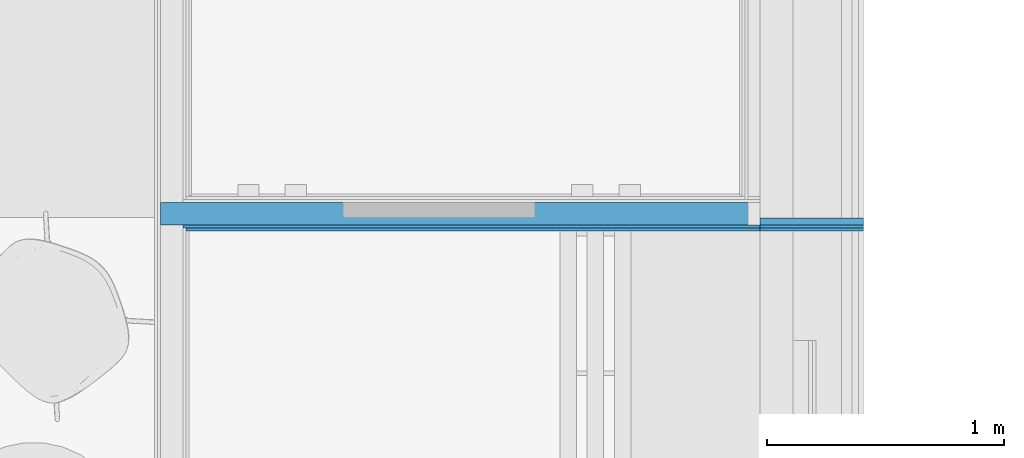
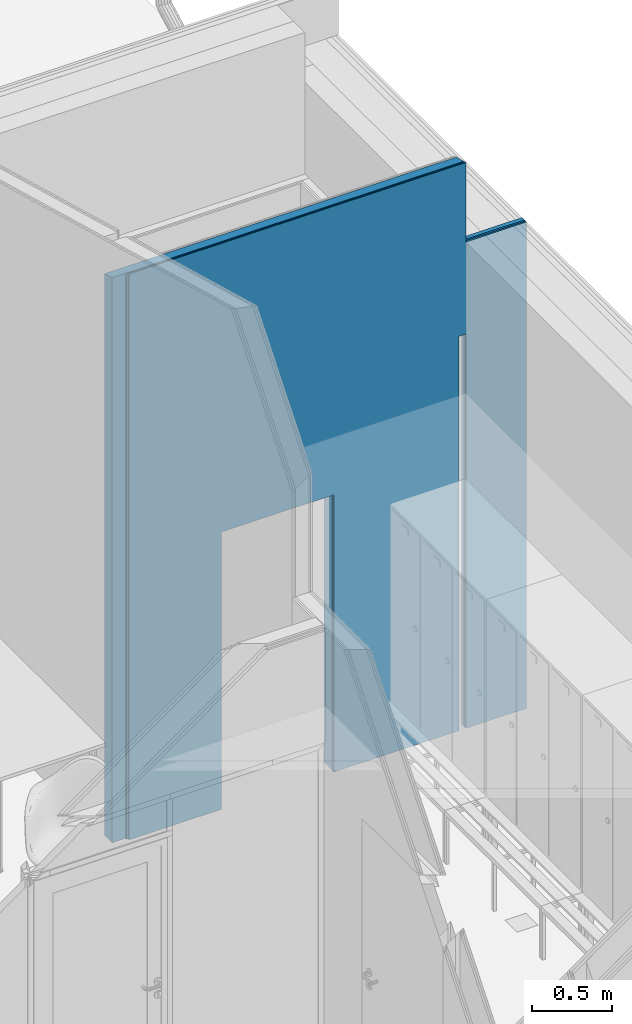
# One storey, part 89 of 153: 3 building element parts, 1 opening, 1 element without a shape of its own.
"""IFC2X3 building model written with IfcOpenShell, lengths in millimetres."""

from ifc_helpers import new_model, entity, si_unit, converted_unit, derived_unit, money_unit, direction, frame, origin_with_axes, place, context, subcontext, project, spatial, faceted_brep, material, type_object, element, aggregate, save


model = new_model("IFC2X3")

# Units and contexts
model_context = context("Model", 3, precision=0.01, world=origin_with_axes(), true_north=direction((0.0, 1.0)))
body_context = subcontext(model_context, "Body", "Model", "MODEL_VIEW")
ifc_project = project(units=[si_unit("LENGTHUNIT", "METRE", prefix="MILLI"), si_unit("AREAUNIT", "SQUARE_METRE"), si_unit("VOLUMEUNIT", "CUBIC_METRE"), converted_unit("PLANEANGLEUNIT", "DEGREE", entity("IfcPlaneAngleMeasure", 0.0174532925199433), si_unit("PLANEANGLEUNIT", "RADIAN"), dimensions=[0, 0, 0, 0, 0, 0, 0]), money_unit("EUR"), converted_unit("TIMEUNIT", "Year", entity("IfcTimeMeasure", 31557600.0), si_unit("TIMEUNIT", "SECOND"), dimensions=[0, 0, 1, 0, 0, 0, 0]), si_unit("MASSUNIT", "GRAM", prefix="KILO"), si_unit("THERMODYNAMICTEMPERATUREUNIT", "DEGREE_CELSIUS"), si_unit("LUMINOUSINTENSITYUNIT", "LUMEN"), si_unit("ENERGYUNIT", "JOULE", prefix="MEGA"), derived_unit("THERMALCONDUCTANCEUNIT", [(si_unit("POWERUNIT", "WATT"), 1), (si_unit("LENGTHUNIT", "METRE"), -1), (si_unit("THERMODYNAMICTEMPERATUREUNIT", "KELVIN"), -1)]), derived_unit("SPECIFICHEATCAPACITYUNIT", [(si_unit("ENERGYUNIT", "JOULE"), 1), (si_unit("MASSUNIT", "GRAM", prefix="KILO"), -1), (si_unit("THERMODYNAMICTEMPERATUREUNIT", "KELVIN"), -1)]), derived_unit("MASSDENSITYUNIT", [(si_unit("MASSUNIT", "GRAM", prefix="KILO"), 1), (si_unit("VOLUMEUNIT", "CUBIC_METRE"), -1)])], contexts=[model_context])

# Site, building, storey
site_placement = place(None, frame((0.0, 0.0, 8650.0), z_axis=(0.0, 0.0, 1.0), x_axis=(1.0, 0.0, 0.0)))
site = spatial("IfcSite", under=ifc_project, at=site_placement, Name="43301:001:0844", CompositionType="ELEMENT")
building_placement = place(site_placement, origin_with_axes())
building = spatial("IfcBuilding", under=site, at=building_placement, Name="Kuressaare Ametikooli tuulikute mehaanikute õppekorpus", CompositionType="ELEMENT")
storey_placement = place(building_placement, frame((0.0, 0.0, 4100.0), z_axis=(0.0, 0.0, 1.0), x_axis=(1.0, 0.0, 0.0)))
storey = spatial("IfcBuildingStorey", under=building, at=storey_placement, Name="2.korrus", CompositionType="ELEMENT", Elevation=4100.0)

# Wall, opening, building element parts
wall_type = type_object("IfcWallType", Name="SS-2.1 147", PredefinedType="NOTDEFINED")
wall_placement = place(storey_placement, frame((133024.9464416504, 26384.06892395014, 0.0), z_axis=(0.0, 0.0, 1.0), x_axis=(-1.0, 0.0, 0.0)))
wall = element("IfcWall", 1, at=wall_placement, inside=storey, type_object=wall_type, Name="Sisesein")
opening_placement = place(wall_placement, frame((1354.878084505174, 0.0, 0.0), z_axis=(0.0, 0.0, 1.0), x_axis=(1.0, 0.0, 0.0)))
element("IfcOpeningElement", 2, at=opening_placement, cuts=wall, Name="NU8", context=body_context, shape_type="Brep", body=[
    faceted_brep([(405.0000000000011, 147.9999999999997, 2110.0), (405.0000000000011, 147.9999999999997, 0.0), (-405.0000000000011, 147.9999999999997, 0.0), (-405.0000000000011, 147.9999999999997, 2110.0), (405.0000000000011, -1.000000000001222, 2110.0), (405.0000000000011, -1.000000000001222, 0.0), (-405.0000000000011, -1.000000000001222, 0.0), (-405.0000000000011, -1.000000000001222, 2110.0)], [[[0, 1, 2, 3]], [[4, 5, 1, 0]], [[5, 6, 2, 1]], [[6, 7, 3, 2]], [[7, 4, 0, 3]], [[6, 5, 4, 7]]]),
])
ifc_material_1 = material(Name="Kipsplaat")
building_element_part_1_placement = place(wall_placement, origin_with_axes())
building_element_part_1 = element("IfcBuildingElementPart", 3, at=building_element_part_1_placement, material=ifc_material_1, Name="Kipsplaat", context=body_context, shape_type="Brep", body=[
    faceted_brep([(2422.878084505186, 134.0000000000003, 4301.957593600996), (3.002810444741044e-06, 134.0000000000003, 4301.957504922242), (3.002810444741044e-06, 134.0000000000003, 3699.999999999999), (-436.9999969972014, 134.0000000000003, 3699.999999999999), (-437.0000000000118, 134.0000000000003, 0.0), (0.0, 134.0000000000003, 0.0), (0.0, 134.0000000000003, 3000.0), (49.99999999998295, 134.0000000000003, 3000.0), (49.99999999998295, 134.0000000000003, 0.0), (949.8780845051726, 134.0000000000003, 0.0), (949.8780845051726, 134.0000000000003, 2110.0), (1759.878084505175, 134.0000000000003, 2110.0), (1759.878084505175, 134.0000000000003, 0.0), (2422.878084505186, 134.0000000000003, 0.0), (3.002810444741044e-06, 147.000000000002, 4305.509025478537), (2422.878084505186, 146.9999999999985, 4305.50911415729), (3.002810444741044e-06, 147.000000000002, 3699.999999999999), (-436.9999969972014, 147.000000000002, 3699.999999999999), (-437.0000000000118, 146.9999999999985, 0.0), (0.0, 146.9999880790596, 0.0), (0.0, 146.9999999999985, 3000.0), (49.99999999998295, 146.9999999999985, 3000.0), (49.99999999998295, 146.9999880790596, 0.0), (949.8780845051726, 146.9999925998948, 0.0), (949.8780845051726, 147.000000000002, 2110.0), (1759.878084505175, 147.000000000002, 2110.0), (1759.878084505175, 146.9999966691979, 0.0), (2422.878084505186, 146.9999999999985, 0.0)], [[[0, 1, 2, 3, 4, 5, 6, 7, 8, 9, 10, 11, 12, 13]], [[14, 1, 0, 15]], [[1, 14, 16, 2]], [[17, 3, 2, 16]], [[4, 3, 17, 18]], [[18, 19, 5, 4]], [[20, 6, 5, 19]], [[21, 7, 6, 20]], [[7, 21, 22, 8]], [[22, 23, 9, 8]], [[24, 10, 9, 23]], [[25, 11, 10, 24]], [[26, 12, 11, 25]], [[13, 12, 26, 27]], [[15, 0, 13, 27]], [[14, 15, 27, 26, 25, 24, 23, 22, 21, 20, 19, 18, 17, 16]]]),
])
building_element_part_2_placement = place(wall_placement, origin_with_axes())
building_element_part_2 = element("IfcBuildingElementPart", 4, at=building_element_part_2_placement, material=ifc_material_1, Name="Kipsplaat", context=body_context, shape_type="Brep", body=[
    faceted_brep([(2435.878084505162, 120.9999999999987, 4298.406073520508), (3.002810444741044e-06, 120.9999999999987, 4298.405984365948), (3.002810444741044e-06, 120.9999999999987, 3699.999999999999), (-436.9999969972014, 120.9999999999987, 3699.999999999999), (-437.0000000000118, 120.9999999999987, 0.0), (0.0, 120.9999999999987, 0.0), (0.0, 120.9999999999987, 3000.0), (49.99999999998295, 120.9999999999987, 3000.0), (49.99999999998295, 120.9999999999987, 0.0), (949.8780845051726, 120.9999999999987, 0.0), (949.8780845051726, 120.9999999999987, 2110.0), (1759.878084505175, 120.9999999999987, 2110.0), (1759.878084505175, 120.9999999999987, 0.0), (2435.878084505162, 120.9999999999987, 0.0), (3.002810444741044e-06, 134.0000000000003, 4301.957504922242), (2435.878084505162, 134.0000000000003, 4301.957594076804), (3.002810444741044e-06, 134.0000000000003, 3699.999999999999), (-436.9999969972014, 134.0000000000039, 3699.999999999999), (-437.0000000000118, 134.0000000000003, 0.0), (0.0, 134.0000000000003, 0.0), (0.0, 134.0000000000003, 3000.0), (49.99999999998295, 134.0000000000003, 3000.0), (49.99999999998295, 134.0000000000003, 0.0), (949.8780845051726, 134.0000000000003, 0.0), (949.8780845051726, 134.0000000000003, 2110.0), (1759.878084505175, 134.0000000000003, 2110.0), (1759.878084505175, 134.0000000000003, 0.0), (2435.878084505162, 134.0000000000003, 0.0)], [[[0, 1, 2, 3, 4, 5, 6, 7, 8, 9, 10, 11, 12, 13]], [[14, 1, 0, 15]], [[1, 14, 16, 2]], [[17, 3, 2, 16]], [[4, 3, 17, 18]], [[18, 19, 5, 4]], [[20, 6, 5, 19]], [[21, 7, 6, 20]], [[7, 21, 22, 8]], [[22, 23, 9, 8]], [[24, 10, 9, 23]], [[25, 11, 10, 24]], [[26, 12, 11, 25]], [[13, 12, 26, 27]], [[15, 0, 13, 27]], [[14, 15, 27, 26, 25, 24, 23, 22, 21, 20, 19, 18, 17, 16]]]),
])
ifc_material_2 = material(Name="Soojustus - Mineraalvill pehme")
building_element_part_3_placement = place(wall_placement, origin_with_axes())
building_element_part_3 = element("IfcBuildingElementPart", 5, at=building_element_part_3_placement, material=ifc_material_2, Name="Soojustus - Mineraalvill pehme", context=body_context, shape_type="Brep", body=[
    faceted_brep([(2530.878084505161, 25.9999999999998, 4272.452657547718), (2.100733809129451e-06, 25.9999999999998, 4272.452564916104), (0.0, 25.9999999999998, 3000.0), (49.99999999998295, 25.9999999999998, 3000.0), (49.99999999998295, 25.9999999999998, 0.0), (949.8780845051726, 25.9999999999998, 0.0), (949.8780845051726, 25.9999999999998, 2110.0), (1759.878084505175, 25.9999999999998, 2110.0), (1759.878084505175, 25.9999999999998, 0.0), (2530.878084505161, 25.9999999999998, 0.0), (3.002810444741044e-06, 120.9999999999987, 4298.405984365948), (2530.878084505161, 120.9999999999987, 4298.406076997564), (3.002810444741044e-06, 120.9999999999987, 3699.999999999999), (0.0, 91.08026123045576, 3699.999999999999), (0.0, 91.08026123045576, 3000.0), (0.0, 120.9999999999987, 3000.0), (49.99999999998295, 120.9999999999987, 3000.0), (49.99999999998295, 120.9999999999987, 0.0), (949.8780845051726, 120.9999999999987, 0.0), (949.8780845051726, 120.9999999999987, 2110.0), (1759.878084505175, 120.9999999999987, 2110.0), (1759.878084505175, 120.9999999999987, 0.0), (2530.878084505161, 120.9999999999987, 0.0), (0.0, 120.9999999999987, 0.0), (-437.0000000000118, 120.9999999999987, 0.0), (-436.9999969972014, 120.9999999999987, 3699.999999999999), (-437.0000000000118, 91.08026123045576, 3699.999999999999), (0.0, 91.08026123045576, 0.0), (-437.0000000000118, 91.08026123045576, 0.0)], [[[0, 1, 2, 3, 4, 5, 6, 7, 8, 9]], [[10, 1, 0, 11]], [[1, 10, 12, 13, 14, 2]], [[3, 2, 14, 15, 16]], [[3, 16, 17, 4]], [[17, 18, 5, 4]], [[19, 6, 5, 18]], [[20, 7, 6, 19]], [[21, 8, 7, 20]], [[9, 8, 21, 22]], [[11, 0, 9, 22]], [[10, 11, 22, 21, 20, 19, 18, 17, 16, 15, 23, 24, 25, 12]], [[26, 13, 12, 25]], [[27, 14, 13, 26, 28]], [[15, 14, 27, 23]], [[24, 23, 27, 28]], [[24, 28, 26, 25]]]),
])
aggregate(wall, [building_element_part_1, building_element_part_2, building_element_part_3])

save(model, "model.ifc")
